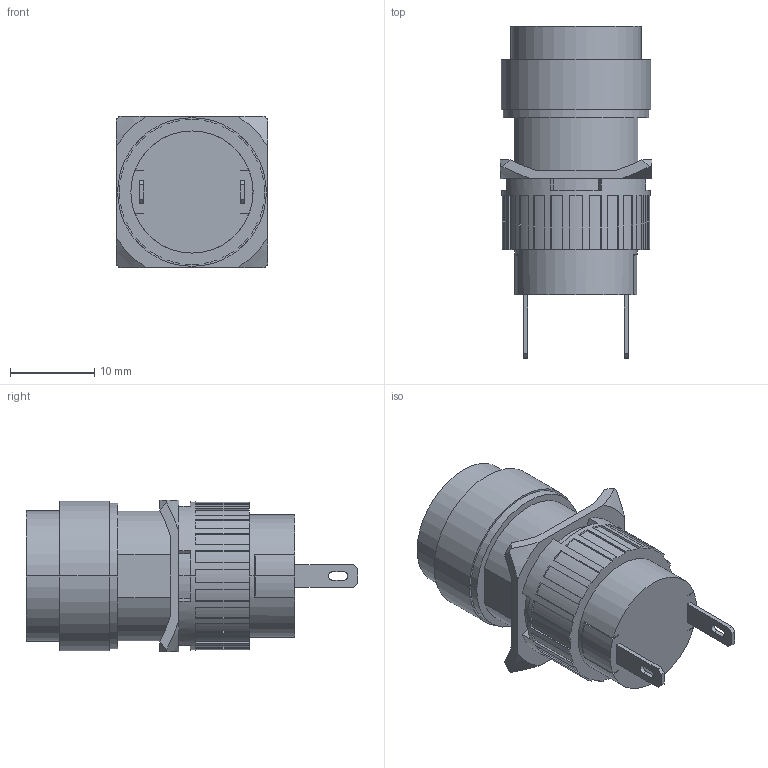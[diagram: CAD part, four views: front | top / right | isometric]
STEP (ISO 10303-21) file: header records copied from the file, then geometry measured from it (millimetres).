
FILE_DESCRIPTION (( 'STEP AP203' ), '1' );
FILE_NAME ('P16-PR.STEP', '2018-02-15T15:27:41', ( '' ), ( '' ), 'SwSTEP 2.0', 'SolidWorks 2012', '' );
FILE_SCHEMA (( 'CONFIG_CONTROL_DESIGN' ));
Length unit declared in the file: millimetre
Products named in the file (1): P16-PR
Bounding box: 18 x 39.4 x 18 mm (x, y, z)
Volume: 6768.2 mm3; surface area: 3197 mm2
Topology: 1 solids, 1 shells, 196 faces, 555 edges, 370 vertices
Faces by surface type: plane 131, cylinder 53, cone 12
Entity records: 6510 total; most frequent: CARTESIAN_POINT 1194, ORIENTED_EDGE 1110, DIRECTION 1107, EDGE_CURVE 555, AXIS2_PLACEMENT_3D 379, VERTEX_POINT 370, LINE 349, VECTOR 349
